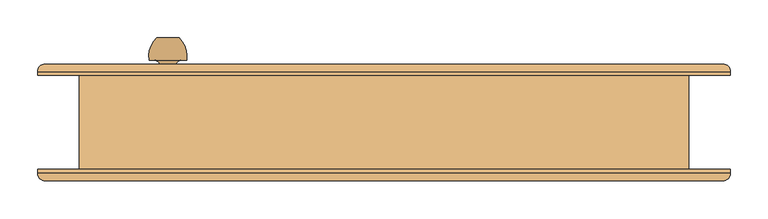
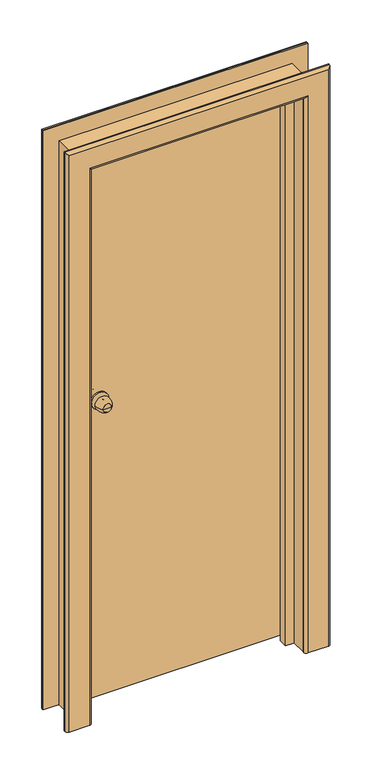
"""IFC4 building model written with IfcOpenShell, lengths in millimetres: door geometry, Внутренняя дверь 1-Навесная - 6629-88 : ДГ 21-8  ГОСТ 6629-88."""

from ifc_helpers import new_model, si_unit, point, frame, origin, place, context, project, spatial, polyline, circle_curve, ellipse_curve, trimmed, outline, extrude, faceted_brep, source, transform, mapped, element, save
from ifc_brep_helpers import plane_surface, cylinder_surface, revolved_surface, advanced_brep


def door_68770bee(model_context):
    return source(origin(), model_context, "Body", "SolidModel", [
        advanced_brep(
        [(-272.0, 112.5, 1100.0), (-287.0, 112.5, 1100.0), (-302.0, 112.5, 1100.0), (-312.0, 82.5, 1100.0), (-262.0, 82.5, 1100.0), (-305.0, 82.5, 1100.0), (-269.0, 82.5, 1100.0), (-297.0, 74.5, 1100.0), (-277.0, 74.5, 1100.0), (-297.0, 68.5, 1100.0), (-277.0, 68.5, 1100.0), (-317.0, 68.5, 1100.0), (-257.0, 68.5, 1100.0), (-317.0, 62.5, 1100.0), (-257.0, 62.5, 1100.0)],
        [
            (0, 1),
            (1, 2),
            (2, 0, circle_curve(frame((-287.0, 112.5, 1100.0), z_axis=(0.0, 1.0, 0.0), x_axis=(-1.0, 0.0, 0.0)), 15.0)),
            (0, 2, circle_curve(frame((-287.0, 112.5, 1100.0), z_axis=(0.0, 1.0, 0.0), x_axis=(-1.0, 0.0, 0.0)), 15.0)),
            (2, 3, circle_curve(frame((-277.3773735, 87.6257912, 1100.0), z_axis=(0.0, 0.0, 1.0), x_axis=(1.0, 0.0, 0.0)), 35.0)),
            (3, 4, circle_curve(frame((-287.0, 82.5, 1100.0), z_axis=(0.0, 1.0, 0.0), x_axis=(-1.0, 0.0, 0.0)), 25.0)),
            (4, 0, circle_curve(frame((-296.6226265, 87.6257912, 1100.0), z_axis=(0.0, 0.0, 1.0), x_axis=(-1.0, 0.0, 0.0)), 35.0)),
            (4, 3, circle_curve(frame((-287.0, 82.5, 1100.0), z_axis=(0.0, 1.0, 0.0), x_axis=(-1.0, 0.0, 0.0)), 25.0)),
            (3, 5),
            (5, 6, circle_curve(frame((-287.0, 82.5, 1100.0), z_axis=(0.0, 1.0, 0.0), x_axis=(-1.0, 0.0, 0.0)), 18.0)),
            (6, 4),
            (6, 5, circle_curve(frame((-287.0, 82.5, 1100.0), z_axis=(0.0, 1.0, 0.0), x_axis=(-1.0, 0.0, 0.0)), 18.0)),
            (5, 7, circle_curve(frame((-305.0, 74.5, 1100.0), z_axis=(0.0, 0.0, -1.0), x_axis=(1.0, 0.0, 0.0)), 8.0)),
            (7, 8, circle_curve(frame((-287.0, 74.5, 1100.0), z_axis=(0.0, 1.0, 0.0), x_axis=(-1.0, 0.0, 0.0)), 10.0)),
            (8, 6, circle_curve(frame((-269.0, 74.5, 1100.0), z_axis=(0.0, 0.0, -1.0), x_axis=(-1.0, 0.0, 0.0)), 8.0)),
            (8, 7, circle_curve(frame((-287.0, 74.5, 1100.0), z_axis=(0.0, 1.0, 0.0), x_axis=(-1.0, 0.0, 0.0)), 10.0)),
            (7, 9),
            (9, 10, circle_curve(frame((-287.0, 68.5, 1100.0), z_axis=(0.0, 1.0, 0.0), x_axis=(-1.0, 0.0, 0.0)), 10.0)),
            (10, 8),
            (10, 9, circle_curve(frame((-287.0, 68.5, 1100.0), z_axis=(0.0, 1.0, 0.0), x_axis=(-1.0, 0.0, 0.0)), 10.0)),
            (11, 12, circle_curve(frame((-287.0, 68.5, 1100.0), z_axis=(0.0, 1.0, 0.0), x_axis=(1.0, 0.0, 0.0)), 30.0)),
            (12, 11, circle_curve(frame((-287.0, 68.5, 1100.0), z_axis=(0.0, 1.0, 0.0), x_axis=(1.0, 0.0, 0.0)), 30.0)),
            (13, 14, circle_curve(frame((-287.0, 62.5, 1100.0), z_axis=(0.0, -1.0, 0.0), x_axis=(1.0, 0.0, 0.0)), 30.0)),
            (14, 13, circle_curve(frame((-287.0, 62.5, 1100.0), z_axis=(0.0, -1.0, 0.0), x_axis=(1.0, 0.0, 0.0)), 30.0)),
            (12, 14),
            (13, 11),
        ],
        [
            plane_surface(frame((-287.0, 112.5, 1100.0), z_axis=(0.0, 1.0, 0.0), x_axis=(-1.0, 0.0, 0.0))),
            revolved_surface(trimmed(ellipse_curve(frame((-277.3773735, 87.6257912, 1100.0), z_axis=(0.0, 0.0, 1.0), x_axis=(1.0, 0.0, 0.0)), 35.0, 35.0), [point((-302.0, 112.5, 1100.0))], [point((-312.0, 82.5, 1100.0))], True, "CARTESIAN"), (-287.0, 142.5, 1100.0), (0.0, -1.0, 0.0)),
            plane_surface(frame((-287.0, 82.5, 1100.0), z_axis=(0.0, -1.0, 0.0), x_axis=(-1.0, 0.0, 0.0))),
            revolved_surface(trimmed(ellipse_curve(frame((-305.0, 74.5, 1100.0), z_axis=(0.0, 0.0, -1.0), x_axis=(1.0, 0.0, 0.0)), 8.0, 8.0), [point((-305.0, 82.5, 1100.0))], [point((-297.0, 74.5, 1100.0))], True, "CARTESIAN"), (-287.0, 142.5, 1100.0), (0.0, -1.0, 0.0)),
            cylinder_surface(frame((-287.0, 142.5, 1100.0), z_axis=(0.0, -1.0, 0.0), x_axis=(-1.0, 0.0, 0.0)), 10.0),
            plane_surface(frame((-257.0, 68.5, 1100.0), z_axis=(0.0, 1.0, 0.0), x_axis=(0.0, 0.0, 1.0))),
            plane_surface(frame((-257.0, 62.5, 1100.0), z_axis=(0.0, -1.0, 0.0), x_axis=(0.0, 0.0, -1.0))),
            cylinder_surface(frame((-287.0, 62.5, 1100.0), z_axis=(0.0, 1.0, 0.0), x_axis=(1.0, 0.0, 0.0)), 30.0),
        ],
        [
            (0, [[1, 2, 3]]),
            (0, [[-1, 4, -2]]),
            (1, [[5, 6, 7, -3]]),
            (1, [[-7, 8, -5, -4]]),
            (2, [[9, 10, 11, -6]]),
            (2, [[-11, 12, -9, -8]]),
            (3, [[13, 14, 15, -10]]),
            (3, [[-15, 16, -13, -12]]),
            (4, [[17, 18, 19, -14]]),
            (4, [[-19, 20, -17, -16]]),
            (5, [[21, 22], [-20, -18]]),
            (6, [[23, 24]]),
            (7, [[25, -23, 26, -22]]),
            (7, [[-26, -24, -25, -21]]),
        ],
    ),
        advanced_brep(
        [(-302.0, -24.5, 1100.0), (-287.0, -24.5, 1100.0), (-272.0, -24.5, 1100.0), (-262.0, 5.5, 1100.0), (-312.0, 5.5, 1100.0), (-269.0, 5.5, 1100.0), (-305.0, 5.5, 1100.0), (-277.0, 13.5, 1100.0), (-297.0, 13.5, 1100.0), (-277.0, 19.5, 1100.0), (-297.0, 19.5, 1100.0), (-257.0, 19.5, 1100.0), (-317.0, 19.5, 1100.0), (-257.0, 25.5, 1100.0), (-317.0, 25.5, 1100.0)],
        [
            (0, 1),
            (1, 2),
            (2, 0, circle_curve(frame((-287.0, -24.5, 1100.0), z_axis=(0.0, -1.0, 0.0), x_axis=(1.0, 0.0, 0.0)), 15.0)),
            (0, 2, circle_curve(frame((-287.0, -24.5, 1100.0), z_axis=(0.0, -1.0, 0.0), x_axis=(1.0, 0.0, 0.0)), 15.0)),
            (2, 3, circle_curve(frame((-296.6226265, 0.3742088, 1100.0), z_axis=(0.0, 0.0, 1.0), x_axis=(-1.0, 0.0, 0.0)), 35.0)),
            (3, 4, circle_curve(frame((-287.0, 5.5, 1100.0), z_axis=(0.0, -1.0, 0.0), x_axis=(1.0, 0.0, 0.0)), 25.0)),
            (4, 0, circle_curve(frame((-277.3773735, 0.3742088, 1100.0), z_axis=(0.0, 0.0, 1.0), x_axis=(1.0, 0.0, 0.0)), 35.0)),
            (4, 3, circle_curve(frame((-287.0, 5.5, 1100.0), z_axis=(0.0, -1.0, 0.0), x_axis=(1.0, 0.0, 0.0)), 25.0)),
            (3, 5),
            (5, 6, circle_curve(frame((-287.0, 5.5, 1100.0), z_axis=(0.0, -1.0, 0.0), x_axis=(1.0, 0.0, 0.0)), 18.0)),
            (6, 4),
            (6, 5, circle_curve(frame((-287.0, 5.5, 1100.0), z_axis=(0.0, -1.0, 0.0), x_axis=(1.0, 0.0, 0.0)), 18.0)),
            (5, 7, circle_curve(frame((-269.0, 13.5, 1100.0), z_axis=(0.0, 0.0, -1.0), x_axis=(-1.0, 0.0, 0.0)), 8.0)),
            (7, 8, circle_curve(frame((-287.0, 13.5, 1100.0), z_axis=(0.0, -1.0, 0.0), x_axis=(1.0, 0.0, 0.0)), 10.0)),
            (8, 6, circle_curve(frame((-305.0, 13.5, 1100.0), z_axis=(0.0, 0.0, -1.0), x_axis=(1.0, 0.0, 0.0)), 8.0)),
            (8, 7, circle_curve(frame((-287.0, 13.5, 1100.0), z_axis=(0.0, -1.0, 0.0), x_axis=(1.0, 0.0, 0.0)), 10.0)),
            (7, 9),
            (9, 10, circle_curve(frame((-287.0, 19.5, 1100.0), z_axis=(0.0, -1.0, 0.0), x_axis=(1.0, 0.0, 0.0)), 10.0)),
            (10, 8),
            (10, 9, circle_curve(frame((-287.0, 19.5, 1100.0), z_axis=(0.0, -1.0, 0.0), x_axis=(1.0, 0.0, 0.0)), 10.0)),
            (11, 12, circle_curve(frame((-287.0, 19.5, 1100.0), z_axis=(0.0, -1.0, 0.0), x_axis=(-1.0, 0.0, 0.0)), 30.0)),
            (12, 11, circle_curve(frame((-287.0, 19.5, 1100.0), z_axis=(0.0, -1.0, 0.0), x_axis=(-1.0, 0.0, 0.0)), 30.0)),
            (13, 14, circle_curve(frame((-287.0, 25.5, 1100.0), z_axis=(0.0, 1.0, 0.0), x_axis=(-1.0, 0.0, 0.0)), 30.0)),
            (14, 13, circle_curve(frame((-287.0, 25.5, 1100.0), z_axis=(0.0, 1.0, 0.0), x_axis=(-1.0, 0.0, 0.0)), 30.0)),
            (12, 14),
            (13, 11),
        ],
        [
            plane_surface(frame((-287.0, -24.5, 1100.0), z_axis=(0.0, -1.0, 0.0), x_axis=(1.0, 0.0, 0.0))),
            revolved_surface(trimmed(ellipse_curve(frame((-296.6226265, 0.3742088, 1100.0), z_axis=(0.0, 0.0, 1.0), x_axis=(-1.0, 0.0, 0.0)), 35.0, 35.0), [point((-272.0, -24.5, 1100.0))], [point((-262.0, 5.5, 1100.0))], True, "CARTESIAN"), (-287.0, -54.5, 1100.0), (0.0, 1.0, 0.0)),
            plane_surface(frame((-287.0, 5.5, 1100.0), z_axis=(0.0, 1.0, 0.0), x_axis=(1.0, 0.0, 0.0))),
            revolved_surface(trimmed(ellipse_curve(frame((-269.0, 13.5, 1100.0), z_axis=(0.0, 0.0, -1.0), x_axis=(-1.0, 0.0, 0.0)), 8.0, 8.0), [point((-269.0, 5.5, 1100.0))], [point((-277.0, 13.5, 1100.0))], True, "CARTESIAN"), (-287.0, -54.5, 1100.0), (0.0, 1.0, 0.0)),
            cylinder_surface(frame((-287.0, -54.5, 1100.0), z_axis=(0.0, 1.0, 0.0), x_axis=(1.0, 0.0, 0.0)), 10.0),
            plane_surface(frame((-317.0, 19.5, 1100.0), z_axis=(0.0, -1.0, 0.0), x_axis=(0.0, 0.0, 1.0))),
            plane_surface(frame((-317.0, 25.5, 1100.0), z_axis=(0.0, 1.0, 0.0), x_axis=(0.0, 0.0, -1.0))),
            cylinder_surface(frame((-287.0, 25.5, 1100.0), z_axis=(0.0, -1.0, 0.0), x_axis=(-1.0, 0.0, 0.0)), 30.0),
        ],
        [
            (0, [[1, 2, 3]]),
            (0, [[-1, 4, -2]]),
            (1, [[5, 6, 7, -3]]),
            (1, [[-7, 8, -5, -4]]),
            (2, [[9, 10, 11, -6]]),
            (2, [[-11, 12, -9, -8]]),
            (3, [[13, 14, 15, -10]]),
            (3, [[-15, 16, -13, -12]]),
            (4, [[17, 18, 19, -14]]),
            (4, [[-19, 20, -17, -16]]),
            (5, [[21, 22], [-20, -18]]),
            (6, [[23, 24]]),
            (7, [[25, -23, 26, -22]]),
            (7, [[-26, -24, -25, -21]]),
        ],
    ),
        extrude(outline(polyline([(0.0, 385.0), (2050.0, 385.0), (2050.0, -385.0), (0.0, -385.0), (0.0, -370.0), (2035.0, -370.0), (2035.0, 370.0), (0.0, 370.0), (0.0, 385.0)])), frame((0.0, -62.5, 0.0), z_axis=(0.0, 1.0, 0.0), x_axis=(0.0, 0.0, 1.0)), (0.0, 0.0, 1.0), 51.0),
        advanced_brep(
        [(-460.0, 62.5, 0.0), (-460.0, 67.5, 0.0), (-450.0, 77.5, 0.0), (-380.0, 77.5, 0.0), (-370.0, 67.5, 0.0), (-370.0, 62.5, 0.0), (-370.0, 62.5, 2035.0), (370.0, 62.5, 2035.0), (370.0, 62.5, 0.0), (460.0, 62.5, 0.0), (460.0, 62.5, 2125.0), (-460.0, 62.5, 2125.0), (-370.0, 67.5, 2035.0), (-380.0, 77.5, 2045.0), (-450.0, 77.5, 2115.0), (450.0, 77.5, 2115.0), (450.0, 77.5, 0.0), (380.0, 77.5, 0.0), (380.0, 77.5, 2045.0), (-460.0, 67.5, 2125.0), (460.0, 67.5, 0.0), (460.0, 67.5, 2125.0), (370.0, 67.5, 0.0), (370.0, 67.5, 2035.0)],
        [
            (0, 1),
            (1, 2, circle_curve(frame((-450.0, 67.5, 0.0), z_axis=(0.0, 0.0, -1.0), x_axis=(-1.0, 0.0, 0.0)), 10.0)),
            (2, 3),
            (3, 4, circle_curve(frame((-380.0, 67.5, 0.0), z_axis=(0.0, 0.0, -1.0), x_axis=(-1.0, 0.0, 0.0)), 10.0)),
            (4, 5),
            (5, 0),
            (5, 6),
            (6, 7),
            (7, 8),
            (8, 9),
            (9, 10),
            (10, 11),
            (11, 0),
            (4, 12),
            (12, 6),
            (3, 13),
            (13, 12, ellipse_curve(frame((-380.0, 67.5, 2045.0), z_axis=(-0.7071067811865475, 0.0, -0.7071067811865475), x_axis=(0.7071067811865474, 0.0, -0.7071067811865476)), 14.1421356, 10.0)),
            (2, 14),
            (14, 15),
            (15, 16),
            (16, 17),
            (17, 18),
            (18, 13),
            (1, 19),
            (19, 14, ellipse_curve(frame((-450.0, 67.5, 2115.0), z_axis=(-0.7071067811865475, 0.0, -0.7071067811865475), x_axis=(0.7071067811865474, 0.0, -0.7071067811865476)), 14.1421356, 10.0)),
            (11, 19),
            (9, 20),
            (20, 21),
            (21, 10),
            (8, 22),
            (22, 17, circle_curve(frame((380.0, 67.5, 0.0), z_axis=(0.0, 0.0, -1.0), x_axis=(1.0, 0.0, 0.0)), 10.0)),
            (16, 20, circle_curve(frame((450.0, 67.5, 0.0), z_axis=(0.0, 0.0, -1.0), x_axis=(1.0, 0.0, 0.0)), 10.0)),
            (23, 22),
            (7, 23),
            (23, 18, ellipse_curve(frame((380.0, 67.5, 2045.0), z_axis=(0.7071067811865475, 0.0, -0.7071067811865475), x_axis=(0.7071067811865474, 0.0, 0.7071067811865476)), 14.1421356, 10.0)),
            (15, 21, ellipse_curve(frame((450.0, 67.5, 2115.0), z_axis=(0.7071067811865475, 0.0, -0.7071067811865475), x_axis=(0.7071067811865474, 0.0, 0.7071067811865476)), 14.1421356, 10.0)),
            (12, 23),
            (19, 21),
        ],
        [
            plane_surface(frame((-405.0, 62.5, 0.0), z_axis=(0.0, 0.0, -1.0), x_axis=(0.0, -1.0, 0.0))),
            plane_surface(frame((-460.0, 62.5, 0.0), z_axis=(0.0, -1.0, 0.0), x_axis=(0.0, 0.0, 1.0))),
            plane_surface(frame((-370.0, 62.5, 0.0), z_axis=(1.0, 0.0, 0.0), x_axis=(0.0, 0.0, 1.0))),
            cylinder_surface(frame((-380.0, 67.5, 0.0), z_axis=(0.0, 0.0, -1.0), x_axis=(-1.0, 0.0, 0.0)), 10.0),
            plane_surface(frame((-380.0, 77.5, 0.0), z_axis=(0.0, 1.0, 0.0), x_axis=(0.0, 0.0, 1.0))),
            cylinder_surface(frame((-450.0, 67.5, 0.0), z_axis=(0.0, 0.0, -1.0), x_axis=(-1.0, 0.0, 0.0)), 10.0),
            plane_surface(frame((-460.0, 67.5, 0.0), z_axis=(-1.0, 0.0, 0.0), x_axis=(0.0, 0.0, 1.0))),
            plane_surface(frame((460.0, 67.5, 2125.0), z_axis=(1.0, 0.0, 0.0), x_axis=(0.0, 0.0, -1.0))),
            plane_surface(frame((405.0, 62.5, 0.0), z_axis=(0.0, 0.0, -1.0), x_axis=(0.0, -1.0, 0.0))),
            plane_surface(frame((370.0, 62.5, 2035.0), z_axis=(-1.0, 0.0, 0.0), x_axis=(0.0, 0.0, -1.0))),
            cylinder_surface(frame((380.0, 67.5, 2070.0), z_axis=(0.0, 0.0, 1.0), x_axis=(1.0, 0.0, 0.0)), 10.0),
            cylinder_surface(frame((450.0, 67.5, 2070.0), z_axis=(0.0, 0.0, 1.0), x_axis=(1.0, 0.0, 0.0)), 10.0),
            plane_surface(frame((-370.0, 62.5, 2035.0), z_axis=(0.0, 0.0, -1.0), x_axis=(1.0, 0.0, 0.0))),
            cylinder_surface(frame((-405.0, 67.5, 2045.0), z_axis=(-1.0, 0.0, 0.0), x_axis=(0.0, 0.0, 1.0)), 10.0),
            cylinder_surface(frame((-405.0, 67.5, 2115.0), z_axis=(-1.0, 0.0, 0.0), x_axis=(0.0, 0.0, 1.0)), 10.0),
            plane_surface(frame((-460.0, 67.5, 2125.0), z_axis=(0.0, 0.0, 1.0), x_axis=(1.0, 0.0, 0.0))),
        ],
        [
            (0, [[1, 2, 3, 4, 5, 6]]),
            (1, [[7, 8, 9, 10, 11, 12, 13, -6]]),
            (2, [[14, 15, -7, -5]]),
            (3, [[16, 17, -14, -4]]),
            (4, [[18, 19, 20, 21, 22, 23, -16, -3]]),
            (5, [[24, 25, -18, -2]]),
            (6, [[-13, 26, -24, -1]]),
            (7, [[-11, 27, 28, 29]]),
            (8, [[-10, 30, 31, -21, 32, -27]]),
            (9, [[33, -30, -9, 34]]),
            (10, [[-22, -31, -33, 35]]),
            (11, [[-28, -32, -20, 36]]),
            (12, [[37, -34, -8, -15]]),
            (13, [[-23, -35, -37, -17]]),
            (14, [[38, -36, -19, -25]]),
            (15, [[-12, -29, -38, -26]]),
        ],
    ),
        advanced_brep(
        [(460.0, -62.5, 0.0), (460.0, -67.5, 0.0), (450.0, -77.5, 0.0), (380.0, -77.5, 0.0), (370.0, -67.5, 0.0), (370.0, -62.5, 0.0), (370.0, -62.5, 2035.0), (-370.0, -62.5, 2035.0), (-370.0, -62.5, 0.0), (-460.0, -62.5, 0.0), (-460.0, -62.5, 2125.0), (460.0, -62.5, 2125.0), (370.0, -67.5, 2035.0), (380.0, -77.5, 2045.0), (450.0, -77.5, 2115.0), (-450.0, -77.5, 2115.0), (-450.0, -77.5, 0.0), (-380.0, -77.5, 0.0), (-380.0, -77.5, 2045.0), (460.0, -67.5, 2125.0), (-460.0, -67.5, 0.0), (-460.0, -67.5, 2125.0), (-370.0, -67.5, 0.0), (-370.0, -67.5, 2035.0)],
        [
            (0, 1),
            (1, 2, circle_curve(frame((450.0, -67.5, 0.0), z_axis=(0.0, 0.0, -1.0), x_axis=(1.0, 0.0, 0.0)), 10.0)),
            (2, 3),
            (3, 4, circle_curve(frame((380.0, -67.5, 0.0), z_axis=(0.0, 0.0, -1.0), x_axis=(1.0, 0.0, 0.0)), 10.0)),
            (4, 5),
            (5, 0),
            (5, 6),
            (6, 7),
            (7, 8),
            (8, 9),
            (9, 10),
            (10, 11),
            (11, 0),
            (4, 12),
            (12, 6),
            (3, 13),
            (13, 12, ellipse_curve(frame((380.0, -67.5, 2045.0), z_axis=(0.7071067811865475, 0.0, -0.7071067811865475), x_axis=(-0.7071067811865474, 0.0, -0.7071067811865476)), 14.1421356, 10.0)),
            (2, 14),
            (14, 15),
            (15, 16),
            (16, 17),
            (17, 18),
            (18, 13),
            (1, 19),
            (19, 14, ellipse_curve(frame((450.0, -67.5, 2115.0), z_axis=(0.7071067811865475, 0.0, -0.7071067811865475), x_axis=(-0.7071067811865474, 0.0, -0.7071067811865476)), 14.1421356, 10.0)),
            (11, 19),
            (9, 20),
            (20, 21),
            (21, 10),
            (8, 22),
            (22, 17, circle_curve(frame((-380.0, -67.5, 0.0), z_axis=(0.0, 0.0, -1.0), x_axis=(-1.0, 0.0, 0.0)), 10.0)),
            (16, 20, circle_curve(frame((-450.0, -67.5, 0.0), z_axis=(0.0, 0.0, -1.0), x_axis=(-1.0, 0.0, 0.0)), 10.0)),
            (23, 22),
            (7, 23),
            (23, 18, ellipse_curve(frame((-380.0, -67.5, 2045.0), z_axis=(-0.7071067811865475, 0.0, -0.7071067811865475), x_axis=(-0.7071067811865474, 0.0, 0.7071067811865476)), 14.1421356, 10.0)),
            (15, 21, ellipse_curve(frame((-450.0, -67.5, 2115.0), z_axis=(-0.7071067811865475, 0.0, -0.7071067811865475), x_axis=(-0.7071067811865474, 0.0, 0.7071067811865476)), 14.1421356, 10.0)),
            (12, 23),
            (19, 21),
        ],
        [
            plane_surface(frame((405.0, -62.5, 0.0), z_axis=(0.0, 0.0, -1.0), x_axis=(0.0, 1.0, 0.0))),
            plane_surface(frame((460.0, -62.5, 0.0), z_axis=(0.0, 1.0, 0.0), x_axis=(0.0, 0.0, 1.0))),
            plane_surface(frame((370.0, -62.5, 0.0), z_axis=(-1.0, 0.0, 0.0), x_axis=(0.0, 0.0, 1.0))),
            cylinder_surface(frame((380.0, -67.5, 0.0), z_axis=(0.0, 0.0, -1.0), x_axis=(1.0, 0.0, 0.0)), 10.0),
            plane_surface(frame((380.0, -77.5, 0.0), z_axis=(0.0, -1.0, 0.0), x_axis=(0.0, 0.0, 1.0))),
            cylinder_surface(frame((450.0, -67.5, 0.0), z_axis=(0.0, 0.0, -1.0), x_axis=(1.0, 0.0, 0.0)), 10.0),
            plane_surface(frame((460.0, -67.5, 0.0), z_axis=(1.0, 0.0, 0.0), x_axis=(0.0, 0.0, 1.0))),
            plane_surface(frame((-460.0, -67.5, 2125.0), z_axis=(-1.0, 0.0, 0.0), x_axis=(0.0, 0.0, -1.0))),
            plane_surface(frame((-405.0, -62.5, 0.0), z_axis=(0.0, 0.0, -1.0), x_axis=(0.0, 1.0, 0.0))),
            plane_surface(frame((-370.0, -62.5, 2035.0), z_axis=(1.0, 0.0, 0.0), x_axis=(0.0, 0.0, -1.0))),
            cylinder_surface(frame((-380.0, -67.5, 2070.0), z_axis=(0.0, 0.0, 1.0), x_axis=(-1.0, 0.0, 0.0)), 10.0),
            cylinder_surface(frame((-450.0, -67.5, 2070.0), z_axis=(0.0, 0.0, 1.0), x_axis=(-1.0, 0.0, 0.0)), 10.0),
            plane_surface(frame((370.0, -62.5, 2035.0), z_axis=(0.0, 0.0, -1.0), x_axis=(-1.0, 0.0, 0.0))),
            cylinder_surface(frame((405.0, -67.5, 2045.0), z_axis=(1.0, 0.0, 0.0), x_axis=(0.0, 0.0, 1.0)), 10.0),
            cylinder_surface(frame((405.0, -67.5, 2115.0), z_axis=(1.0, 0.0, 0.0), x_axis=(0.0, 0.0, 1.0)), 10.0),
            plane_surface(frame((460.0, -67.5, 2125.0), z_axis=(0.0, 0.0, 1.0), x_axis=(-1.0, 0.0, 0.0))),
        ],
        [
            (0, [[1, 2, 3, 4, 5, 6]]),
            (1, [[7, 8, 9, 10, 11, 12, 13, -6]]),
            (2, [[14, 15, -7, -5]]),
            (3, [[16, 17, -14, -4]]),
            (4, [[18, 19, 20, 21, 22, 23, -16, -3]]),
            (5, [[24, 25, -18, -2]]),
            (6, [[-13, 26, -24, -1]]),
            (7, [[-11, 27, 28, 29]]),
            (8, [[-10, 30, 31, -21, 32, -27]]),
            (9, [[33, -30, -9, 34]]),
            (10, [[-22, -31, -33, 35]]),
            (11, [[-28, -32, -20, 36]]),
            (12, [[37, -34, -8, -15]]),
            (13, [[-23, -35, -37, -17]]),
            (14, [[38, -36, -19, -25]]),
            (15, [[-12, -29, -38, -26]]),
        ],
    ),
        faceted_brep([(340.0, -11.5, 0.0), (340.0, 20.5, 0.0), (352.0, 20.5, 0.0), (352.0, 62.5, 0.0), (385.0, 62.5, 0.0), (385.0, -11.5, 0.0), (385.0, -11.5, 2050.0), (-385.0, -11.5, 2050.0), (-385.0, -11.5, 0.0), (-340.0, -11.5, 0.0), (-340.0, -11.5, 2005.0), (340.0, -11.5, 2005.0), (385.0, 62.5, 2050.0), (352.0, 62.5, 2017.0), (-352.0, 62.5, 2017.0), (-352.0, 62.5, 0.0), (-385.0, 62.5, 0.0), (-385.0, 62.5, 2050.0), (352.0, 20.5, 2017.0), (340.0, 20.5, 2005.0), (-340.0, 20.5, 2005.0), (-340.0, 20.5, 0.0), (-352.0, 20.5, 0.0), (-352.0, 20.5, 2017.0)], [[[0, 1, 2, 3, 4, 5]], [[5, 6, 7, 8, 9, 10, 11, 0]], [[4, 12, 6, 5]], [[3, 13, 14, 15, 16, 17, 12, 4]], [[2, 18, 13, 3]], [[1, 19, 20, 21, 22, 23, 18, 2]], [[0, 11, 19, 1]], [[10, 9, 21, 20]], [[9, 8, 16, 15, 22, 21]], [[17, 16, 8, 7]], [[23, 22, 15, 14]], [[12, 17, 7, 6]], [[18, 23, 14, 13]], [[11, 10, 20, 19]]]),
        extrude(outline(polyline([(0.0, 405.0), (2070.0, 405.0), (2070.0, -405.0), (0.0, -405.0), (0.0, -385.0), (2050.0, -385.0), (2050.0, 385.0), (0.0, 385.0), (0.0, 405.0)])), frame((0.0, -62.5, 0.0), z_axis=(0.0, 1.0, 0.0), x_axis=(0.0, 0.0, 1.0)), (0.0, 0.0, 1.0), 125.0),
        extrude(outline(polyline([(347.0, 25.5), (-347.0, 25.5), (-347.0, 62.5), (347.0, 62.5), (347.0, 25.5)])), frame((0.0, 0.0, 15.0), z_axis=(0.0, 0.0, 1.0), x_axis=(1.0, 0.0, 0.0)), (0.0, 0.0, 1.0), 1997.0),
    ])


if __name__ == "__main__":
    model = new_model("IFC4")
    model_context = context("Model", 3, world=origin())
    ifc_project = project(units=[si_unit("LENGTHUNIT", "METRE", prefix="MILLI")], contexts=[model_context])
    site = spatial("IfcSite", under=ifc_project)
    building = spatial("IfcBuilding", under=site)
    placement = place(None, origin())
    door_shape = door_68770bee(model_context)
    element("IfcDoor", 1, ObjectType="Внутренняя дверь 1-Навесная - 6629-88 : ДГ 21-8  ГОСТ 6629-88", at=placement, inside=building, context=model_context, shape_type="MappedRepresentation", body=[
        mapped(door_shape, transform((0.0, 0.0, 0.0), x_axis=(1.0, 0.0, 0.0), y_axis=(0.0, 1.0, 0.0), z_axis=(0.0, 0.0, 1.0))),
    ])
    save(model, "model.ifc")
